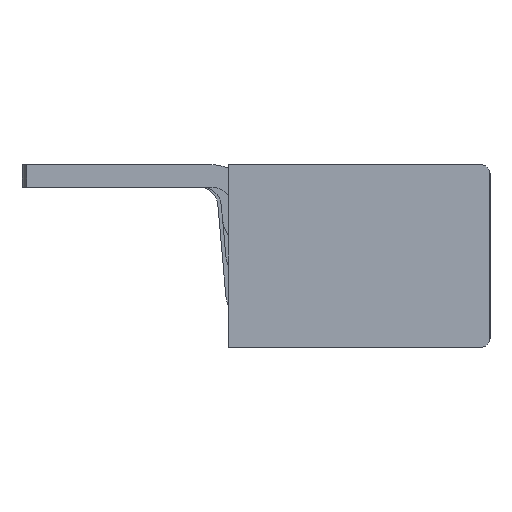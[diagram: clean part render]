
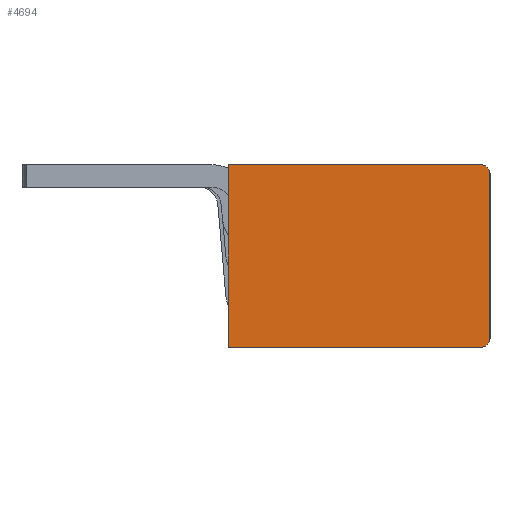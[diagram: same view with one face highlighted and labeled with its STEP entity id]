
A CAD part, left-side view. The second image highlights one B-rep face of the part: STEP entity #4694.
In plain terms, the highlighted planar face has unit normal (-1, 0, 0).
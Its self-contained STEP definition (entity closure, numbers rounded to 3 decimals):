
#242 = DIRECTION ( 'NONE',  ( 0., 0., -1. ) ) ;
#322 = VECTOR ( 'NONE', #8236, 1000. ) ;
#855 = LINE ( 'NONE', #5714, #322 ) ;
#904 = VERTEX_POINT ( 'NONE', #19034 ) ;
#1304 = VERTEX_POINT ( 'NONE', #27796 ) ;
#1636 = DIRECTION ( 'NONE',  ( 1., 0., 0. ) ) ;
#1952 = CARTESIAN_POINT ( 'NONE',  ( 0., 0.5, 0.5 ) ) ;
#3040 = AXIS2_PLACEMENT_3D ( 'NONE', #12173, #19401, #242 ) ;
#3557 = ORIENTED_EDGE ( 'NONE', *, *, #9018, .F. ) ;
#4536 = EDGE_CURVE ( 'NONE', #1304, #4882, #30408, .T. ) ;
#4560 = VERTEX_POINT ( 'NONE', #11413 ) ;
#4683 = DIRECTION ( 'NONE',  ( 0., 0., 1. ) ) ;
#4694 = ADVANCED_FACE ( 'NONE', ( #21451 ), #26480, .F. ) ;
#4882 = VERTEX_POINT ( 'NONE', #7080 ) ;
#5471 = EDGE_CURVE ( 'NONE', #5503, #904, #19660, .T. ) ;
#5503 = VERTEX_POINT ( 'NONE', #30167 ) ;
#5714 = CARTESIAN_POINT ( 'NONE',  ( 0., 0., 10.6 ) ) ;
#6814 = DIRECTION ( 'NONE',  ( 0., -0.707, 0.707 ) ) ;
#7080 = CARTESIAN_POINT ( 'NONE',  ( 0., 0.5, 10.6 ) ) ;
#7892 = EDGE_CURVE ( 'NONE', #904, #21941, #12647, .T. ) ;
#7977 = DIRECTION ( 'NONE',  ( 0., -0.707, 0.707 ) ) ;
#8236 = DIRECTION ( 'NONE',  ( 0., 0., -1. ) ) ;
#8330 = CARTESIAN_POINT ( 'NONE',  ( 0., 15.2, 0. ) ) ;
#8446 = ORIENTED_EDGE ( 'NONE', *, *, #5471, .F. ) ;
#8632 = AXIS2_PLACEMENT_3D ( 'NONE', #25770, #30474, #8959 ) ;
#8879 = CARTESIAN_POINT ( 'NONE',  ( 0., 0., 0.5 ) ) ;
#8959 = DIRECTION ( 'NONE',  ( 0., -0.707, -0.707 ) ) ;
#9018 = EDGE_CURVE ( 'NONE', #21941, #1304, #11288, .T. ) ;
#9251 = CARTESIAN_POINT ( 'NONE',  ( 0., 15.2, 0. ) ) ;
#9471 = DIRECTION ( 'NONE',  ( 1., 0., 0. ) ) ;
#9575 = VECTOR ( 'NONE', #16099, 1000. ) ;
#10428 = VERTEX_POINT ( 'NONE', #22894 ) ;
#11288 = LINE ( 'NONE', #9251, #13570 ) ;
#11413 = CARTESIAN_POINT ( 'NONE',  ( 0., 0.146, 10.454 ) ) ;
#11533 = DIRECTION ( 'NONE',  ( 1., 0., 0. ) ) ;
#12173 = CARTESIAN_POINT ( 'NONE',  ( 0., 6.746, 5.226 ) ) ;
#12647 = LINE ( 'NONE', #17512, #17805 ) ;
#12896 = AXIS2_PLACEMENT_3D ( 'NONE', #1952, #1636, #14194 ) ;
#13003 = EDGE_CURVE ( 'NONE', #4560, #10428, #23851, .T. ) ;
#13570 = VECTOR ( 'NONE', #4683, 1000. ) ;
#13917 = EDGE_CURVE ( 'NONE', #10428, #25986, #855, .T. ) ;
#14194 = DIRECTION ( 'NONE',  ( 0., -0.707, -0.707 ) ) ;
#14277 = ORIENTED_EDGE ( 'NONE', *, *, #13003, .F. ) ;
#14446 = ORIENTED_EDGE ( 'NONE', *, *, #13917, .F. ) ;
#16099 = DIRECTION ( 'NONE',  ( 0., -1., 0. ) ) ;
#16314 = AXIS2_PLACEMENT_3D ( 'NONE', #21260, #11533, #6814 ) ;
#16392 = AXIS2_PLACEMENT_3D ( 'NONE', #21549, #9471, #7977 ) ;
#17199 = DIRECTION ( 'NONE',  ( 0., 1., 0. ) ) ;
#17512 = CARTESIAN_POINT ( 'NONE',  ( 0., 0., 0. ) ) ;
#17704 = ORIENTED_EDGE ( 'NONE', *, *, #4536, .F. ) ;
#17805 = VECTOR ( 'NONE', #17199, 1000. ) ;
#19034 = CARTESIAN_POINT ( 'NONE',  ( 0., 0.5, 0. ) ) ;
#19401 = DIRECTION ( 'NONE',  ( 1., 0., 0. ) ) ;
#19660 = CIRCLE ( 'NONE', #8632, 0.5 ) ;
#20226 = ORIENTED_EDGE ( 'NONE', *, *, #7892, .F. ) ;
#20666 = CARTESIAN_POINT ( 'NONE',  ( 0., 15.2, 10.6 ) ) ;
#20902 = CIRCLE ( 'NONE', #16392, 0.5 ) ;
#20925 = CIRCLE ( 'NONE', #12896, 0.5 ) ;
#21260 = CARTESIAN_POINT ( 'NONE',  ( 0., 0.5, 10.1 ) ) ;
#21451 = FACE_OUTER_BOUND ( 'NONE', #28492, .T. ) ;
#21549 = CARTESIAN_POINT ( 'NONE',  ( 0., 0.5, 10.1 ) ) ;
#21941 = VERTEX_POINT ( 'NONE', #8330 ) ;
#22173 = ORIENTED_EDGE ( 'NONE', *, *, #26446, .F. ) ;
#22894 = CARTESIAN_POINT ( 'NONE',  ( 0., 0., 10.1 ) ) ;
#23851 = CIRCLE ( 'NONE', #16314, 0.5 ) ;
#25770 = CARTESIAN_POINT ( 'NONE',  ( 0., 0.5, 0.5 ) ) ;
#25986 = VERTEX_POINT ( 'NONE', #8879 ) ;
#26446 = EDGE_CURVE ( 'NONE', #4882, #4560, #20902, .T. ) ;
#26480 = PLANE ( 'NONE',  #3040 ) ;
#27099 = EDGE_CURVE ( 'NONE', #25986, #5503, #20925, .T. ) ;
#27796 = CARTESIAN_POINT ( 'NONE',  ( 0., 15.2, 10.6 ) ) ;
#28165 = ORIENTED_EDGE ( 'NONE', *, *, #27099, .F. ) ;
#28492 = EDGE_LOOP ( 'NONE', ( #22173, #17704, #3557, #20226, #8446, #28165, #14446, #14277 ) ) ;
#30167 = CARTESIAN_POINT ( 'NONE',  ( 0., 0.146, 0.146 ) ) ;
#30408 = LINE ( 'NONE', #20666, #9575 ) ;
#30474 = DIRECTION ( 'NONE',  ( 1., 0., 0. ) ) ;
